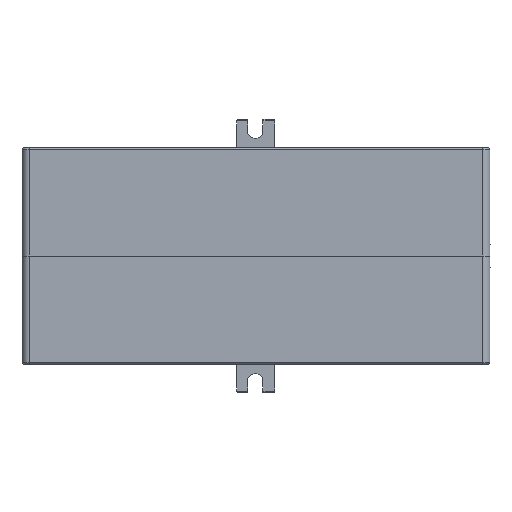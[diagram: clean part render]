
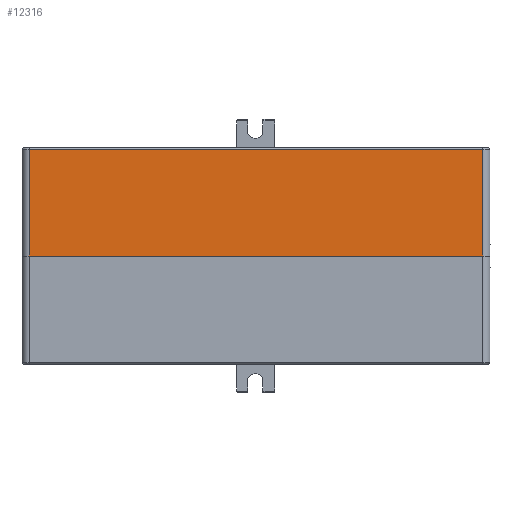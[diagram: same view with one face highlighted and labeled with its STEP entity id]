
A CAD part, left-side view. The second image highlights one B-rep face of the part: STEP entity #12316.
In plain terms, the highlighted planar face has unit normal (-1, 0, 0).
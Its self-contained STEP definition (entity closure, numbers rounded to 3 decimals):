
#654=FACE_OUTER_BOUND('',#1396,.T.);
#1396=EDGE_LOOP('',(#8722,#8723,#8724,#8725));
#3008=LINE('',#19235,#4204);
#3009=LINE('',#19239,#4205);
#3010=LINE('',#19241,#4206);
#3011=LINE('',#19242,#4207);
#4204=VECTOR('',#15153,1.);
#4205=VECTOR('',#15158,1.);
#4206=VECTOR('',#15159,1.);
#4207=VECTOR('',#15160,1.);
#5399=VERTEX_POINT('',#19232);
#5400=VERTEX_POINT('',#19234);
#5401=VERTEX_POINT('',#19238);
#5402=VERTEX_POINT('',#19240);
#6684=EDGE_CURVE('',#5400,#5399,#3008,.T.);
#6686=EDGE_CURVE('',#5399,#5401,#3009,.T.);
#6687=EDGE_CURVE('',#5402,#5401,#3010,.T.);
#6688=EDGE_CURVE('',#5402,#5400,#3011,.T.);
#8722=ORIENTED_EDGE('',*,*,#6684,.T.);
#8723=ORIENTED_EDGE('',*,*,#6686,.T.);
#8724=ORIENTED_EDGE('',*,*,#6687,.F.);
#8725=ORIENTED_EDGE('',*,*,#6688,.T.);
#11945=PLANE('',#13190);
#12316=ADVANCED_FACE('',(#654),#11945,.T.);
#13190=AXIS2_PLACEMENT_3D('',#19237,#15156,#15157);
#15153=DIRECTION('',(0.,0.,1.));
#15156=DIRECTION('center_axis',(-1.,0.,0.));
#15157=DIRECTION('ref_axis',(0.,0.,1.));
#15158=DIRECTION('',(0.,1.,0.));
#15159=DIRECTION('',(0.,0.,1.));
#15160=DIRECTION('',(0.,-1.,0.));
#19232=CARTESIAN_POINT('',(115.598,-32.853,-0.5));
#19234=CARTESIAN_POINT('',(115.598,-32.853,-30.05));
#19235=CARTESIAN_POINT('',(115.598,-32.853,-30.05));
#19237=CARTESIAN_POINT('Origin',(115.598,30.127,-30.05));
#19238=CARTESIAN_POINT('',(115.598,93.107,-0.5));
#19239=CARTESIAN_POINT('',(115.598,30.127,-0.5));
#19240=CARTESIAN_POINT('',(115.598,93.107,-30.05));
#19241=CARTESIAN_POINT('',(115.598,93.107,-30.05));
#19242=CARTESIAN_POINT('',(115.598,93.107,-30.05));
